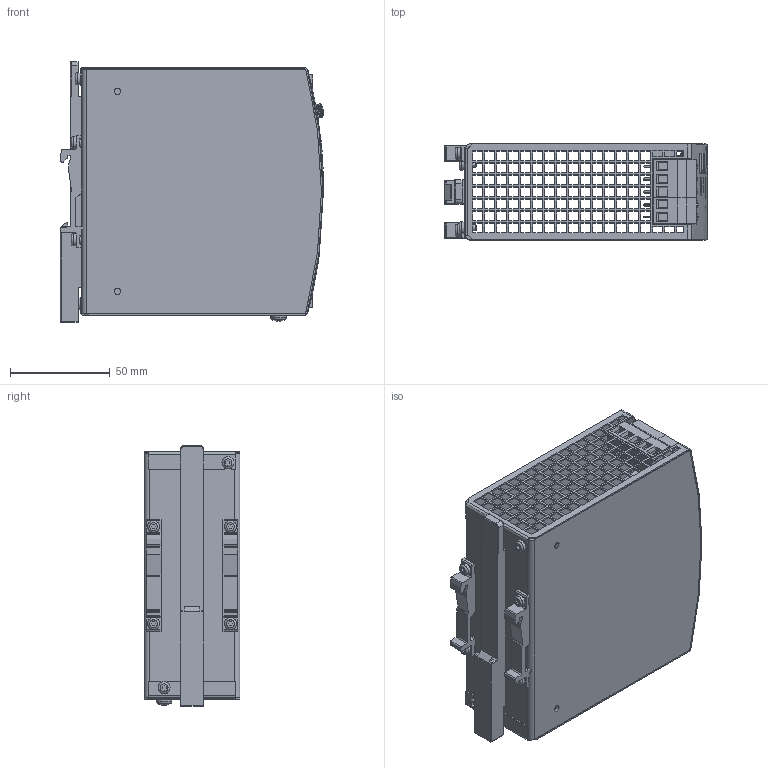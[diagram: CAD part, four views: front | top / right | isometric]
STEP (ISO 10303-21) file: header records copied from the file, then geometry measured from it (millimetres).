
FILE_DESCRIPTION(/* description */ (''),/* implementation_level */ '2;1');
FILE_NAME(/* name */ 'L:\MKT-GER\Neue Webdokumente\Daten von KO\Internet\CP20.242 (426.60)\md3_cp20_242.stp',/* time_stamp */ '2018-01-09T10:18:05+01:00',/* author */ ('rahns'),/* organization */ (''),/* preprocessor_version */ 'ST-DEVELOPER v17',/* originating_system */ 'Autodesk Inventor 2018',/* authorisation */ '');
FILE_SCHEMA (('CONFIG_CONTROL_DESIGN'));
Products named in the file (13): 426.60; HOUSING BODY 426.00; HOUSING COVER 426.00; FRONTFOIL 426.60; MKT_SLIDER; MKT_T HOLDER; MKT_SCREW 3x6; MKT_LP2SW-R6; MKT_LED GN; MKT_POTI COVER; MKT_LP3BK-D2; MKT_LP2BK-D2; MKT_SCREW 4x8
Assembly tree (20 placements, depth 2):
  426.60
    HOUSING BODY 426.00
    HOUSING COVER 426.00
    FRONTFOIL 426.60
    MKT_SLIDER
    MKT_SCREW 3x6  x6
    MKT_T HOLDER  x2
    MKT_LP2SW-R6  x2
    MKT_LED GN
    MKT_POTI COVER
    MKT_LP3BK-D2  x2
    MKT_LP2BK-D2
    MKT_SCREW 4x8
Bounding box: 131.72 x 48 x 130.5 mm (x, y, z)
Volume: 87650.3 mm3; surface area: 121718.6 mm2
Topology: 21 solids, 21 shells, 2682 faces, 7478 edges, 4982 vertices
Faces by surface type: plane 1997, bspline 352, cylinder 267, cone 28, torus 25, sphere 13
Full cylindrical faces by diameter (mm): 0.05 x2, 0.3 x8, 2.45 x2, 2.7 x1, 3 x6, 3.1 x4, 3.2 x3, 3.621 x1, 4 x1, 4.355 x1, 4.5 x1, 4.6 x1, 5.15 x8, 6 x6
Entity records: 90656 total; most frequent: CARTESIAN_POINT 29960, ORIENTED_EDGE 13168, DIRECTION 10749, EDGE_CURVE 6584, LINE 4971, VECTOR 4971, VERTEX_POINT 4380, EDGE_LOOP 2950
